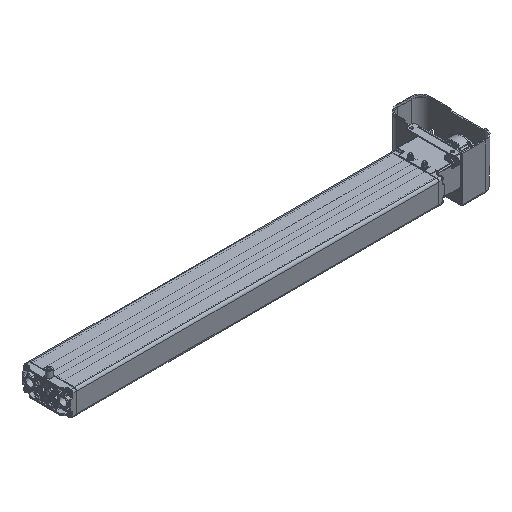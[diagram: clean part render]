
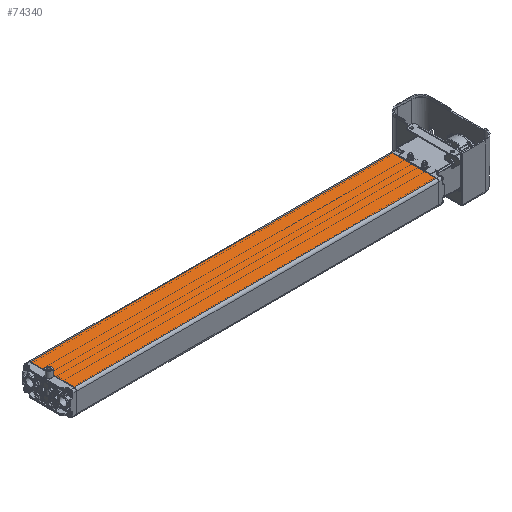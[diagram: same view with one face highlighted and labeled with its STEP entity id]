
A CAD part, isometric view. The second image highlights one B-rep face of the part: STEP entity #74340.
In plain terms, the highlighted planar face has unit normal (0, 0, 1).
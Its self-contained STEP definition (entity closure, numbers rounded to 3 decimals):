
#7070=LINE('',#125523,#10090);
#7071=LINE('',#125526,#10091);
#7072=LINE('',#125528,#10092);
#7073=LINE('',#125530,#10093);
#10090=VECTOR('',#86734,1000.);
#10091=VECTOR('',#86735,1000.);
#10092=VECTOR('',#86736,1000.);
#10093=VECTOR('',#86737,1000.);
#17786=ORIENTED_EDGE('',*,*,#34827,.T.);
#17787=ORIENTED_EDGE('',*,*,#34828,.T.);
#17788=ORIENTED_EDGE('',*,*,#34829,.T.);
#17789=ORIENTED_EDGE('',*,*,#34830,.T.);
#34827=EDGE_CURVE('',#43573,#43574,#7070,.F.);
#34828=EDGE_CURVE('',#43574,#43575,#7071,.T.);
#34829=EDGE_CURVE('',#43575,#43576,#7072,.T.);
#34830=EDGE_CURVE('',#43576,#43573,#7073,.F.);
#43573=VERTEX_POINT('',#125524);
#43574=VERTEX_POINT('',#125525);
#43575=VERTEX_POINT('',#125527);
#43576=VERTEX_POINT('',#125529);
#51972=EDGE_LOOP('',(#17786,#17787,#17788,#17789));
#56555=FACE_BOUND('',#51972,.T.);
#60296=PLANE('',#78822);
#74340=ADVANCED_FACE('',(#56555),#60296,.T.);
#78822=AXIS2_PLACEMENT_3D('',#125522,#86732,#86733);
#86732=DIRECTION('',(0.,0.,1.));
#86733=DIRECTION('',(1.,0.,0.));
#86734=DIRECTION('',(0.,-1.,0.));
#86735=DIRECTION('',(-1.,0.,0.));
#86736=DIRECTION('',(0.,-1.,0.));
#86737=DIRECTION('',(-1.,0.,0.));
#125522=CARTESIAN_POINT('',(60.,893.5,30.));
#125523=CARTESIAN_POINT('',(54.,893.5,30.));
#125524=CARTESIAN_POINT('',(54.,0.5,30.));
#125525=CARTESIAN_POINT('',(54.,893.,30.));
#125526=CARTESIAN_POINT('',(60.,893.,30.));
#125527=CARTESIAN_POINT('',(-54.,893.,30.));
#125528=CARTESIAN_POINT('',(-54.,893.5,30.));
#125529=CARTESIAN_POINT('',(-54.,0.5,30.));
#125530=CARTESIAN_POINT('',(54.,0.5,30.));
